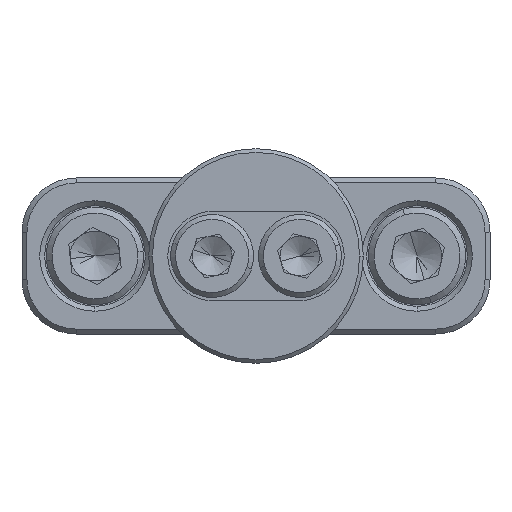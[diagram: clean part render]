
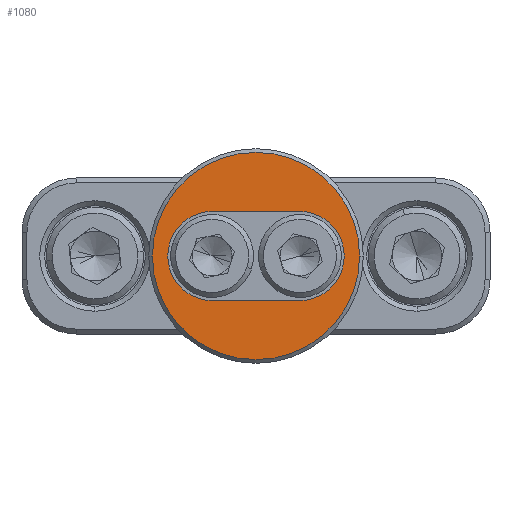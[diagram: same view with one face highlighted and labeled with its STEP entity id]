
A CAD part, front view. The second image highlights one B-rep face of the part: STEP entity #1080.
In plain terms, the highlighted planar face has unit normal (0, -1, 0).
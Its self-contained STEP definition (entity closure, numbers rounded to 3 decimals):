
#39 = CARTESIAN_POINT ( 'NONE',  ( 0., 0., 0. ) ) ;
#64 = ORIENTED_EDGE ( 'NONE', *, *, #1621, .T. ) ;
#229 = AXIS2_PLACEMENT_3D ( 'NONE', #4949, #697, #1152 ) ;
#303 = VECTOR ( 'NONE', #5213, 1000. ) ;
#508 = DIRECTION ( 'NONE',  ( 0., 0., -1. ) ) ;
#587 = CARTESIAN_POINT ( 'NONE',  ( -4.572, 0., -4.47 ) ) ;
#697 = DIRECTION ( 'NONE',  ( 0., -1., 0. ) ) ;
#724 = VERTEX_POINT ( 'NONE', #3117 ) ;
#855 = DIRECTION ( 'NONE',  ( 0., -1., 0. ) ) ;
#956 = CARTESIAN_POINT ( 'NONE',  ( -4.572, 0., -4.47 ) ) ;
#970 = EDGE_CURVE ( 'NONE', #4339, #1512, #3479, .T. ) ;
#1080 = ADVANCED_FACE ( 'NONE', ( #2232, #4593 ), #5223, .F. ) ;
#1152 = DIRECTION ( 'NONE',  ( 0., 0., 1. ) ) ;
#1345 = ORIENTED_EDGE ( 'NONE', *, *, #970, .T. ) ;
#1427 = ORIENTED_EDGE ( 'NONE', *, *, #5955, .F. ) ;
#1512 = VERTEX_POINT ( 'NONE', #5571 ) ;
#1565 = AXIS2_PLACEMENT_3D ( 'NONE', #3260, #2795, #3710 ) ;
#1621 = EDGE_CURVE ( 'NONE', #1512, #4339, #4330, .T. ) ;
#1643 = CIRCLE ( 'NONE', #1710, 4.572 ) ;
#1710 = AXIS2_PLACEMENT_3D ( 'NONE', #6000, #3743, #2279 ) ;
#1714 = CARTESIAN_POINT ( 'NONE',  ( 4.572, 0., -4.47 ) ) ;
#2001 = ORIENTED_EDGE ( 'NONE', *, *, #5554, .F. ) ;
#2232 = FACE_BOUND ( 'NONE', #3502, .T. ) ;
#2279 = DIRECTION ( 'NONE',  ( 0., 0., -1. ) ) ;
#2386 = DIRECTION ( 'NONE',  ( 0., 0., 1. ) ) ;
#2529 = VECTOR ( 'NONE', #508, 1000. ) ;
#2535 = CIRCLE ( 'NONE', #229, 4.572 ) ;
#2786 = AXIS2_PLACEMENT_3D ( 'NONE', #39, #3155, #2386 ) ;
#2795 = DIRECTION ( 'NONE',  ( 0., -1., 0. ) ) ;
#2902 = CARTESIAN_POINT ( 'NONE',  ( 4.572, 0., -4.47 ) ) ;
#2974 = AXIS2_PLACEMENT_3D ( 'NONE', #5292, #4364, #3455 ) ;
#2975 = CARTESIAN_POINT ( 'NONE',  ( 0., 0., 10.617 ) ) ;
#3117 = CARTESIAN_POINT ( 'NONE',  ( 4.572, 0., 4.47 ) ) ;
#3153 = ORIENTED_EDGE ( 'NONE', *, *, #6014, .F. ) ;
#3155 = DIRECTION ( 'NONE',  ( 0., 1., 0. ) ) ;
#3237 = DIRECTION ( 'NONE',  ( 0., 0., 1. ) ) ;
#3260 = CARTESIAN_POINT ( 'NONE',  ( 0., 0., 0. ) ) ;
#3455 = DIRECTION ( 'NONE',  ( 0., 0., 1. ) ) ;
#3479 = CIRCLE ( 'NONE', #3512, 10.617 ) ;
#3500 = VERTEX_POINT ( 'NONE', #1714 ) ;
#3502 = EDGE_LOOP ( 'NONE', ( #1427, #2001, #5323, #3153, #5864 ) ) ;
#3512 = AXIS2_PLACEMENT_3D ( 'NONE', #5111, #855, #3237 ) ;
#3603 = VERTEX_POINT ( 'NONE', #3887 ) ;
#3643 = VERTEX_POINT ( 'NONE', #5794 ) ;
#3710 = DIRECTION ( 'NONE',  ( 0., 0., 1. ) ) ;
#3728 = EDGE_LOOP ( 'NONE', ( #1345, #64 ) ) ;
#3743 = DIRECTION ( 'NONE',  ( 0., -1., 0. ) ) ;
#3887 = CARTESIAN_POINT ( 'NONE',  ( 0., 0., -9.042 ) ) ;
#3930 = LINE ( 'NONE', #956, #2529 ) ;
#4148 = LINE ( 'NONE', #2902, #303 ) ;
#4232 = CIRCLE ( 'NONE', #2974, 4.572 ) ;
#4309 = EDGE_CURVE ( 'NONE', #6070, #3603, #4232, .T. ) ;
#4330 = CIRCLE ( 'NONE', #1565, 10.617 ) ;
#4339 = VERTEX_POINT ( 'NONE', #2975 ) ;
#4364 = DIRECTION ( 'NONE',  ( 0., -1., 0. ) ) ;
#4593 = FACE_OUTER_BOUND ( 'NONE', #3728, .T. ) ;
#4949 = CARTESIAN_POINT ( 'NONE',  ( 0., 0., -4.47 ) ) ;
#5111 = CARTESIAN_POINT ( 'NONE',  ( 0., 0., 0. ) ) ;
#5213 = DIRECTION ( 'NONE',  ( 0., 0., 1. ) ) ;
#5223 = PLANE ( 'NONE',  #2786 ) ;
#5292 = CARTESIAN_POINT ( 'NONE',  ( 0., 0., -4.47 ) ) ;
#5323 = ORIENTED_EDGE ( 'NONE', *, *, #4309, .F. ) ;
#5554 = EDGE_CURVE ( 'NONE', #3603, #3500, #2535, .T. ) ;
#5571 = CARTESIAN_POINT ( 'NONE',  ( 0., 0., -10.617 ) ) ;
#5786 = EDGE_CURVE ( 'NONE', #724, #3643, #1643, .T. ) ;
#5794 = CARTESIAN_POINT ( 'NONE',  ( -4.572, 0., 4.47 ) ) ;
#5864 = ORIENTED_EDGE ( 'NONE', *, *, #5786, .F. ) ;
#5955 = EDGE_CURVE ( 'NONE', #3500, #724, #4148, .T. ) ;
#6000 = CARTESIAN_POINT ( 'NONE',  ( 0., 0., 4.47 ) ) ;
#6014 = EDGE_CURVE ( 'NONE', #3643, #6070, #3930, .T. ) ;
#6070 = VERTEX_POINT ( 'NONE', #587 ) ;
